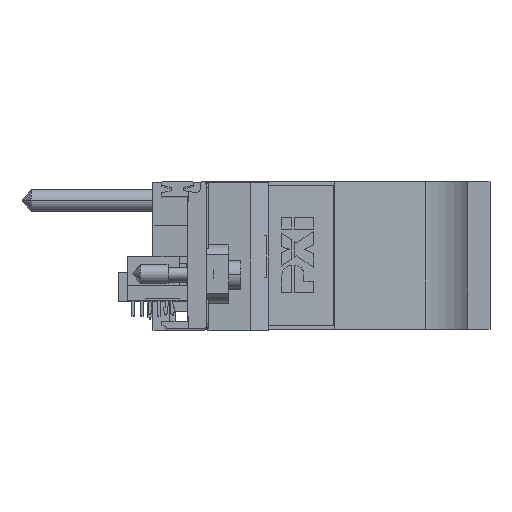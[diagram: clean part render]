
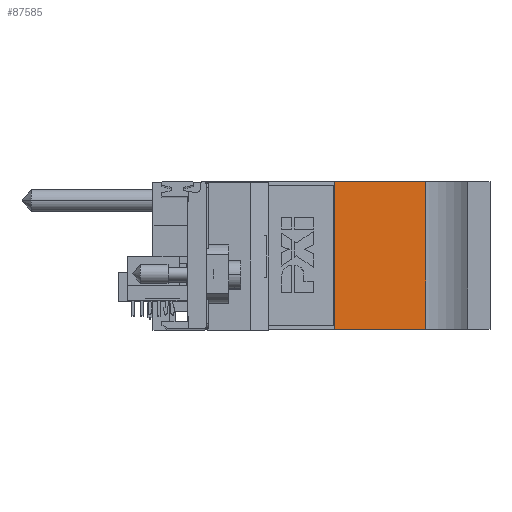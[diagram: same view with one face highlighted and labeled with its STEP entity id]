
A CAD part, top view. The second image highlights one B-rep face of the part: STEP entity #87585.
In plain terms, the highlighted planar face has unit normal (0.065, 0, 0.998) as drawn and (0.998, 0.065, 0) by its records, which use the part's own axes.
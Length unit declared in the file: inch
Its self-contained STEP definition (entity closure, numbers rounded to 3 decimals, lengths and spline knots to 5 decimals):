
#85589=DIRECTION('',(-0.065,0.998,0.));
#85590=VECTOR('',#85589,0.48638);
#85591=CARTESIAN_POINT('',(0.31242,0.5341,0.));
#85592=LINE('',#85591,#85590);
#86176=DIRECTION('',(0.,0.,1.));
#86177=VECTOR('',#86176,0.788);
#86178=CARTESIAN_POINT('',(0.28064,1.01944,0.));
#86179=LINE('',#86178,#86177);
#86190=DIRECTION('',(0.,0.,-1.));
#86191=VECTOR('',#86190,0.788);
#86192=CARTESIAN_POINT('',(0.31242,0.5341,0.788));
#86193=LINE('',#86192,#86191);
#86483=DIRECTION('',(0.065,-0.998,0.));
#86484=VECTOR('',#86483,0.48638);
#86485=CARTESIAN_POINT('',(0.28064,1.01944,0.788));
#86486=LINE('',#86485,#86484);
#86823=CARTESIAN_POINT('',(0.31242,0.5341,0.));
#86824=VERTEX_POINT('',#86823);
#86825=CARTESIAN_POINT('',(0.28064,1.01944,0.));
#86826=VERTEX_POINT('',#86825);
#87027=CARTESIAN_POINT('',(0.28064,1.01944,0.788));
#87028=VERTEX_POINT('',#87027);
#87029=CARTESIAN_POINT('',(0.31242,0.5341,0.788));
#87030=VERTEX_POINT('',#87029);
#87572=CARTESIAN_POINT('',(0.28064,1.01944,0.788));
#87573=DIRECTION('',(-0.998,-0.065,0.));
#87574=DIRECTION('',(0.065,-0.998,0.));
#87575=AXIS2_PLACEMENT_3D('',#87572,#87573,#87574);
#87576=PLANE('',#87575);
#87578=ORIENTED_EDGE('',*,*,#87577,.F.);
#87580=ORIENTED_EDGE('',*,*,#87579,.F.);
#87581=ORIENTED_EDGE('',*,*,#87562,.F.);
#87582=ORIENTED_EDGE('',*,*,#87064,.F.);
#87583=EDGE_LOOP('',(#87578,#87580,#87581,#87582));
#87584=FACE_OUTER_BOUND('',#87583,.F.);
#87064=EDGE_CURVE('',#86824,#86826,#85592,.T.);
#87562=EDGE_CURVE('',#86826,#87028,#86179,.T.);
#87577=EDGE_CURVE('',#87030,#86824,#86193,.T.);
#87579=EDGE_CURVE('',#87028,#87030,#86486,.T.);
#87585=ADVANCED_FACE('',(#87584),#87576,.F.);
